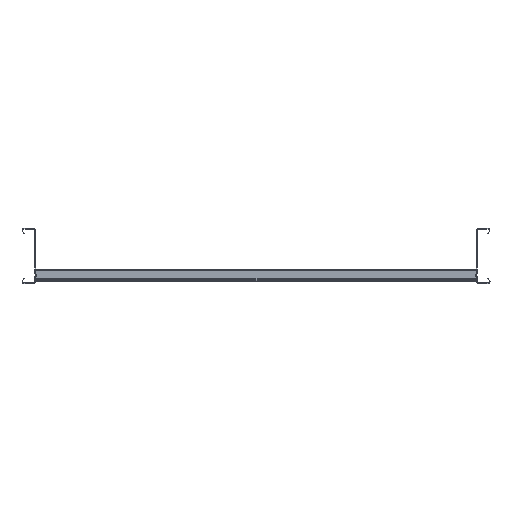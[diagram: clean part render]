
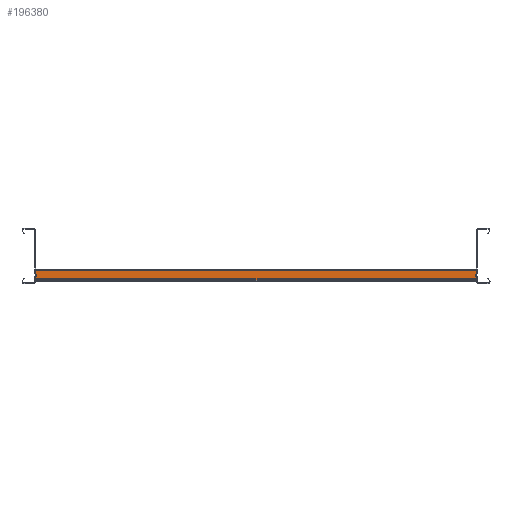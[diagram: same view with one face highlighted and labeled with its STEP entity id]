
A CAD part, left-side view. The second image highlights one B-rep face of the part: STEP entity #196380.
In plain terms, the highlighted planar face has unit normal (-1, 0, 0).
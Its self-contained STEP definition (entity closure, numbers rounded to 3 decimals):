
#195990=CARTESIAN_POINT('',(0.25,878.,0.));
#196000=DIRECTION('',(-1.,0.,0.));
#196010=DIRECTION('',(0.,1.,0.));
#196020=AXIS2_PLACEMENT_3D('',#195990,#196000,#196010);
#196030=PLANE('',#196020);
#196040=CARTESIAN_POINT('',(0.25,0.,-200.));
#196050=DIRECTION('',(0.,1.,0.));
#196060=VECTOR('',#196050,1.);
#196070=LINE('',#196040,#196060);
#196080=CARTESIAN_POINT('',(0.25,881.,-200.));
#196090=VERTEX_POINT('',#196080);
#196100=CARTESIAN_POINT('',(0.25,897.,-200.));
#196110=VERTEX_POINT('',#196100);
#196120=EDGE_CURVE('',#196090,#196110,#196070,.T.);
#196130=ORIENTED_EDGE('',*,*,#196120,.F.);
#196140=CARTESIAN_POINT('',(0.25,897.,0.));
#196150=DIRECTION('',(0.,0.,1.));
#196160=VECTOR('',#196150,1.);
#196170=LINE('',#196140,#196160);
#196180=CARTESIAN_POINT('',(0.25,897.,600.));
#196190=VERTEX_POINT('',#196180);
#196200=EDGE_CURVE('',#196110,#196190,#196170,.T.);
#196210=ORIENTED_EDGE('',*,*,#196200,.F.);
#196220=CARTESIAN_POINT('',(0.25,0.,600.));
#196230=DIRECTION('',(0.,-1.,0.));
#196240=VECTOR('',#196230,1.);
#196250=LINE('',#196220,#196240);
#196260=CARTESIAN_POINT('',(0.25,881.,600.));
#196270=VERTEX_POINT('',#196260);
#196280=EDGE_CURVE('',#196190,#196270,#196250,.T.);
#196290=ORIENTED_EDGE('',*,*,#196280,.F.);
#196300=CARTESIAN_POINT('',(0.25,881.,0.));
#196310=DIRECTION('',(0.,0.,1.));
#196320=VECTOR('',#196310,1.);
#196330=LINE('',#196300,#196320);
#196340=EDGE_CURVE('',#196090,#196270,#196330,.T.);
#196350=ORIENTED_EDGE('',*,*,#196340,.T.);
#196360=EDGE_LOOP('',(#196350,#196290,#196210,#196130));
#196370=FACE_OUTER_BOUND('',#196360,.T.);
#196380=ADVANCED_FACE('',(#196370),#196030,.T.);
